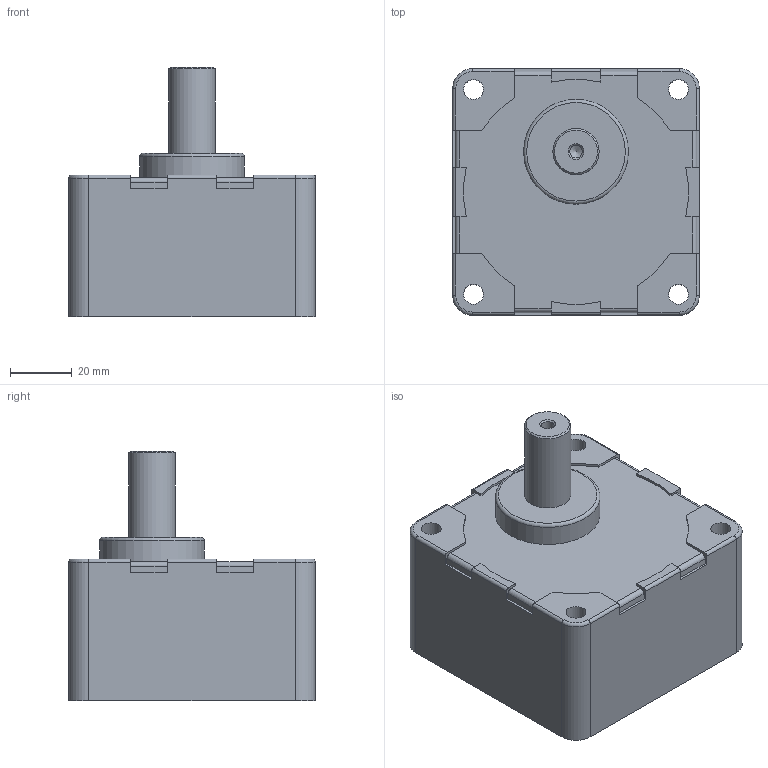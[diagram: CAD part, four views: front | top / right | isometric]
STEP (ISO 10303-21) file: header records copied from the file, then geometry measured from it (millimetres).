
FILE_DESCRIPTION(/* description */ (''),/* implementation_level */ '2;1');
FILE_NAME(/* name */ 'E:\도면작업\2016\0704) 미주향 SG 도면\3D GEAR HEAD\SG8SA30~120.stp',/* time_stamp */ '2016-07-22T14:03:34+09:00',/* author */ ('jy-jung'),/* organization */ (''),/* preprocessor_version */ 'ST-DEVELOPER v15.6',/* originating_system */ 'Autodesk Inventor 2015',/* authorisation */ '');
FILE_SCHEMA (('AUTOMOTIVE_DESIGN { 1 0 10303 214 3 1 1 }'));
Length unit declared in the file: millimetre
Products named in the file (1): SG8SA30~120
Bounding box: 80 x 80 x 81 mm (x, y, z)
Volume: 283731 mm3; surface area: 33547 mm2
Topology: 1 solids, 1 shells, 100 faces, 268 edges, 174 vertices
Faces by surface type: plane 50, cylinder 40, cone 5, torus 5
Full cylindrical faces by diameter (mm): 4.134 x1, 6.5 x4, 7.5 x1, 15 x1, 34 x1, 73 x1
Entity records: 3085 total; most frequent: DIRECTION 543, CARTESIAN_POINT 526, ORIENTED_EDGE 504, EDGE_CURVE 252, AXIS2_PLACEMENT_3D 190, VERTEX_POINT 173, LINE 163, VECTOR 163
